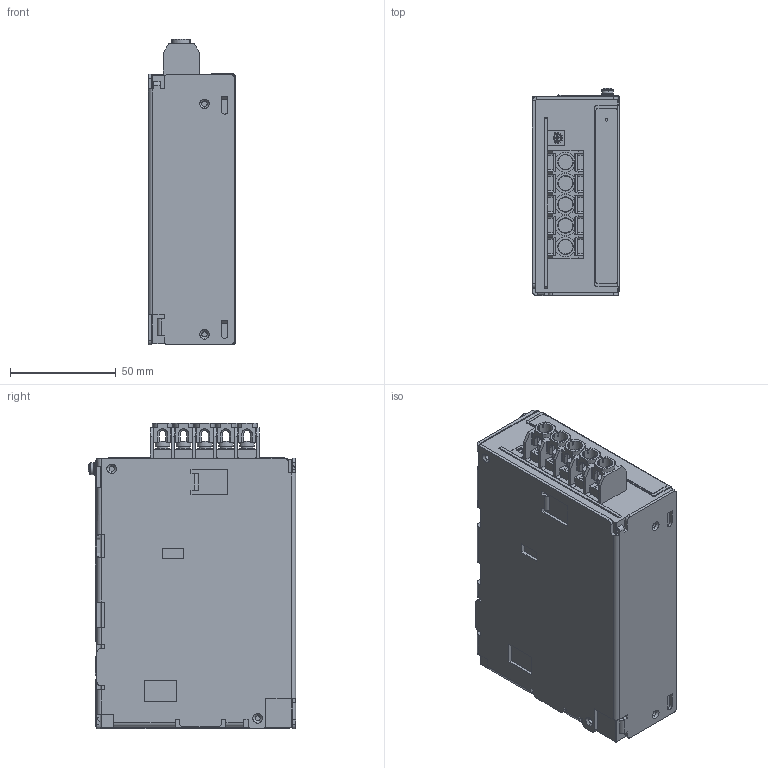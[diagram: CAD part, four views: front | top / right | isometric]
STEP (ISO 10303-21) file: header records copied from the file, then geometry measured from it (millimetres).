
FILE_DESCRIPTION (( 'STEP AP214' ), '1' );
FILE_NAME ('rws150b_outline.STEP', '2013-11-25T08:06:29', ( 'tluser' ), ( '' ), 'SwSTEP 2.0', 'SolidWorks 2013', '' );
FILE_SCHEMA (( 'AUTOMOTIVE_DESIGN' ));
Length unit declared in the file: millimetre
Products named in the file (1): rws150b_outline
Bounding box: 41.2 x 98.05 x 144.6 mm (x, y, z)
Volume: 494416.3 mm3; surface area: 52165.4 mm2
Topology: 1 solids, 36 shells, 1807 faces, 4966 edges, 3267 vertices
Faces by surface type: plane 1293, cylinder 415, sphere 34, cone 31, torus 24, bspline 10
Entity records: 78480 total; most frequent: CARTESIAN_POINT 12571, ORIENTED_EDGE 9832, DIRECTION 9111, EDGE_CURVE 4916, VECTOR 3643, LINE 3643, VERTEX_POINT 3251, AXIS2_PLACEMENT_3D 2734
